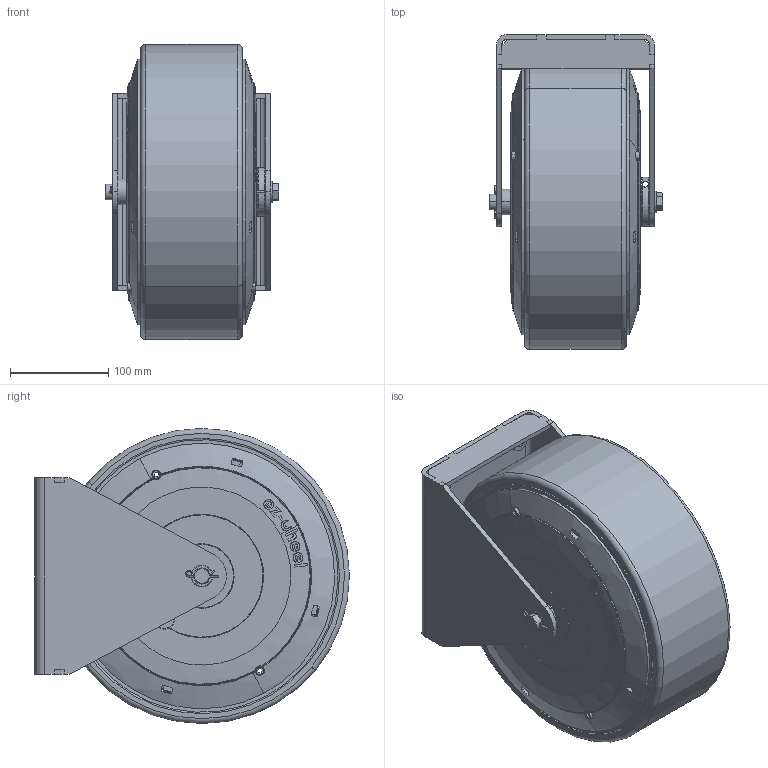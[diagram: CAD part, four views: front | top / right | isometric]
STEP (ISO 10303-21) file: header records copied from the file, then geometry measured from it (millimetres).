
FILE_DESCRIPTION (( 'STEP AP214' ), '1' );
FILE_NAME ('A_200841.STEP', '2013-03-11T10:23:35', ( '' ), ( '' ), 'SwSTEP 2.0', 'SolidWorks 2011', '' );
FILE_SCHEMA (( 'AUTOMOTIVE_DESIGN' ));
Length unit declared in the file: millimetre
Products named in the file (1): A_200841
Bounding box: 176 x 320 x 299.99 mm (x, y, z)
Surface area: 536846.3 mm2 (no closed solid volume)
Topology: 0 solids, 142 shells, 595 faces, 4710 edges, 4218 vertices
Faces by surface type: plane 272, cylinder 128, bspline 94, torus 66, cone 35
Entity records: 73414 total; most frequent: CARTESIAN_POINT 36217, ORIENTED_EDGE 5611, DIRECTION 4710, EDGE_CURVE 4710, VERTEX_POINT 4218, LINE 2382, VECTOR 2382, B_SPLINE_CURVE_WITH_KNOTS 1645
